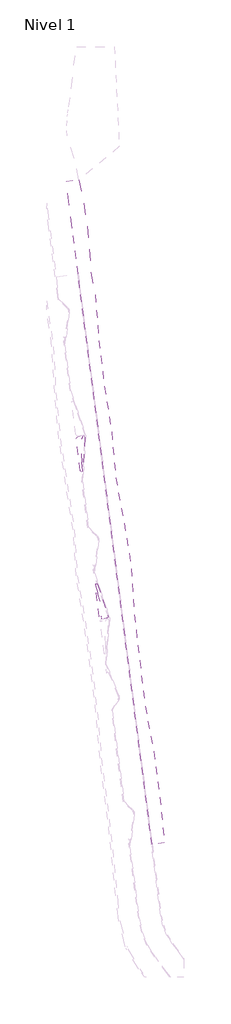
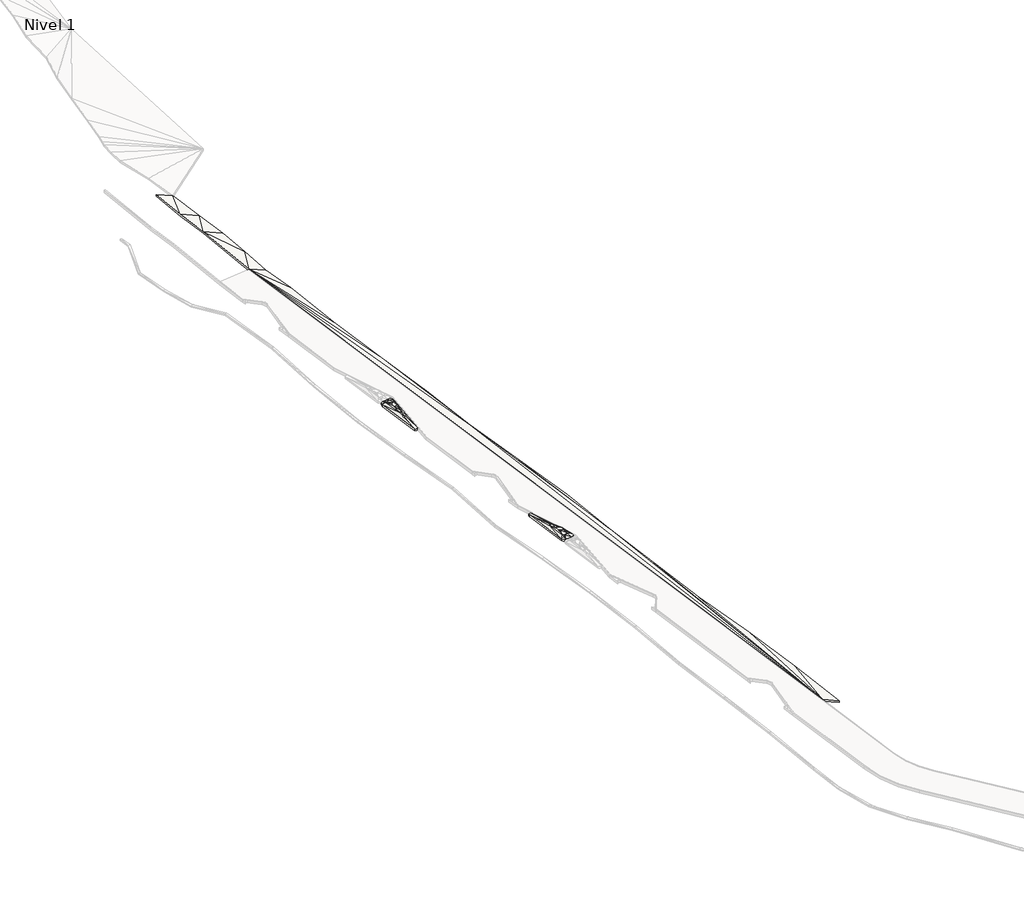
# One storey, part 35 of 45: 3 slabs.
"""IFC4 building model written with IfcOpenShell, lengths in millimetres."""

from ifc_helpers import new_model, si_unit, frame, origin, place, context, project, spatial, polyline, circle_curve, faceted_brep, element, save
from ifc_brep_helpers import plane_surface, cylinder_surface, revolved_surface, spline_surface, advanced_brep

model = new_model("IFC4")

# Units and contexts
model_context = context("Model", 3, world=origin())
ifc_project = project(units=[si_unit("LENGTHUNIT", "METRE", prefix="MILLI")], contexts=[model_context])

# Site, building, storey
site = spatial("IfcSite", under=ifc_project)
building = spatial("IfcBuilding", under=site)
storey = spatial("IfcBuildingStorey", under=building, Name="Nivel 1", Elevation=0.0)

# Slabs
placement = place(None, origin())
element("IfcSlab", 1, ObjectType="Junko", at=placement, inside=storey, context=model_context, shape_type="Brep", body=[
    faceted_brep([(-195170.9155208, 667830.5965732, 4950.0), (-195170.9155208, 667830.5965732, 5250.0), (-211233.6497505, 791794.2548292, 5250.0), (-211233.6497505, 791794.2548292, 4950.0), (-212518.6684889, 801711.3474896, 5750.0), (-213161.1778582, 806669.8938207, 5750.0), (-213839.5859699, 811905.4875942, 6013.9681786), (-213839.5859699, 811905.4875942, 5713.9681786), (-213161.1778582, 806669.8938207, 5450.0), (-212518.6684889, 801711.3474896, 5450.0), (-211091.2718558, 812261.603559, 4628.3220272), (-211091.2718558, 812261.603559, 4328.3220272), (-210006.257356, 807078.6962887, 4159.4608279), (-210006.257356, 807078.6962887, 3859.4608279), (-209289.6207255, 802129.755084, 4121.9785406), (-209289.6207255, 802129.755084, 3821.9785406), (-208796.7351194, 797151.8210811, 3947.4160766), (-208796.7351194, 797151.8210811, 3647.4160766), (-208525.7530939, 792145.1336672, 3884.7329891), (-208525.7530939, 792145.1336672, 3584.7329891), (-207525.3404823, 787232.9630615, 3704.486574), (-207525.3404823, 787232.9630615, 3404.486574), (-206722.8011146, 777253.3525793, 3947.5416702), (-206722.8011146, 777253.3525793, 3647.5416702), (-205534.8394693, 767323.6836349, 3996.6804232), (-205534.8394693, 767323.6836349, 3696.6804232), (-203972.3323759, 757442.5468487, 3856.571398), (-203972.3323759, 757442.5468487, 3556.571398), (-203086.9123284, 747473.6757247, 4058.3155019), (-203086.9123284, 747473.6757247, 3758.3155019), (-201268.4325087, 737625.7068986, 3789.080498), (-201268.4325087, 737625.7068986, 3489.080498), (-199650.7773329, 727751.7159903, 3621.3719756), (-199650.7773329, 727751.7159903, 3321.3719756), (-199029.3715208, 717748.6349182, 3955.9529208), (-199029.3715208, 717748.6349182, 3655.9529208), (-197885.7599017, 707813.2192665, 4027.2472792), (-197885.7599017, 707813.2192665, 3727.2472792), (-196684.430047, 697885.2825226, 4069.4415097), (-196684.430047, 697885.2825226, 3769.4415097), (-194837.7203735, 688040.9716131, 3786.247774), (-194837.7203735, 688040.9716131, 3486.247774), (-193483.9677748, 678132.7852202, 3751.5940553), (-193483.9677748, 678132.7852202, 3451.5940553), (-192518.157872, 668174.3307062, 3912.7211086), (-192518.157872, 668174.3307062, 3612.7211086)], [[[0, 1, 2, 3]], [[3, 2, 4, 5, 6, 7, 8, 9]], [[7, 6, 10, 11]], [[11, 10, 12, 13]], [[13, 12, 14, 15]], [[15, 14, 16, 17]], [[17, 16, 18, 19]], [[19, 18, 20, 21]], [[21, 20, 22, 23]], [[23, 22, 24, 25]], [[25, 24, 26, 27]], [[27, 26, 28, 29]], [[29, 28, 30, 31]], [[31, 30, 32, 33]], [[33, 32, 34, 35]], [[35, 34, 36, 37]], [[37, 36, 38, 39]], [[39, 38, 40, 41]], [[41, 40, 42, 43]], [[43, 42, 44, 45]], [[45, 44, 1, 0]], [[44, 42, 1]], [[45, 0, 43]], [[18, 16, 2]], [[20, 18, 2]], [[22, 20, 2]], [[24, 22, 2]], [[28, 24, 2]], [[14, 12, 4]], [[16, 14, 4]], [[40, 38, 1]], [[38, 36, 1]], [[42, 40, 1]], [[28, 26, 24]], [[34, 32, 30]], [[34, 28, 1]], [[36, 34, 1]], [[28, 2, 1]], [[19, 3, 17]], [[21, 3, 19]], [[23, 3, 21]], [[25, 3, 23]], [[29, 3, 25]], [[15, 9, 13]], [[17, 9, 15]], [[41, 0, 39]], [[39, 0, 37]], [[43, 0, 41]], [[29, 25, 27]], [[35, 31, 33]], [[35, 0, 29]], [[37, 0, 35]], [[29, 0, 3]], [[12, 10, 5]], [[16, 4, 2]], [[13, 8, 11]], [[17, 3, 9]], [[10, 6, 5]], [[12, 5, 4]], [[11, 8, 7]], [[13, 9, 8]], [[34, 30, 28]], [[35, 29, 31]]]),
])
element("IfcSlab", 2, ObjectType="Lippia", at=placement, inside=storey, context=model_context, shape_type="AdvancedBrep", body=[
    advanced_brep(
    [(-205152.7904342, 716954.5844093, 4950.0), (-205152.7904342, 716954.5844093, 5250.0), (-206061.8627749, 716837.3988308, 5250.0), (-206061.8627749, 716837.3988308, 4950.0), (-204777.8757837, 717636.2487935, 4950.0), (-204777.8757837, 717636.2487935, 5250.0), (-207022.4075223, 724287.3066201, 4950.0), (-207022.4075223, 724287.3066201, 5250.0), (-206618.2267558, 717267.9018518, 4950.0), (-206618.2267558, 717267.9018518, 5250.0), (-207509.2699008, 724206.4725139, 5250.0), (-207509.2699008, 724206.4725139, 4950.0), (-205560.8729092, 718791.9179982, 5750.0), (-205922.3436547, 719244.8389837, 5750.0), (-206252.5769525, 719287.8151394, 5750.0), (-206340.1718507, 718962.8624334, 5750.0), (-206210.197183, 718721.0064653, 5750.0), (-206071.9677279, 718441.7922734, 5750.0), (-205631.1533079, 718419.5376255, 5750.0), (-205461.6057428, 717572.8333993, 5550.0), (-205911.1551237, 717342.2757156, 5550.0), (-205560.8729092, 718791.9179982, 5450.0), (-205631.1533079, 718419.5376255, 5450.0), (-206071.9677279, 718441.7922734, 5450.0), (-206210.197183, 718721.0064653, 5450.0), (-206340.1718507, 718962.8624334, 5450.0), (-206252.5769525, 719287.8151394, 5450.0), (-205922.3436547, 719244.8389837, 5450.0), (-205461.6057428, 717572.8333993, 5250.0), (-205911.1551237, 717342.2757156, 5250.0), (-206135.6834692, 720500.7082796, 5550.0), (-206616.3095927, 720378.6899323, 5550.0), (-206135.6834692, 720500.7082796, 5250.0), (-206616.3095927, 720378.6899323, 5250.0), (-206273.4515128, 717534.8154871, 5550.0), (-206122.5749502, 717333.6991753, 5550.0), (-206273.4515128, 717534.8154871, 5250.0), (-206122.5749502, 717333.6991753, 5250.0), (-205221.607243, 717842.1926766, 5550.0), (-205221.607243, 717842.1926766, 5250.0), (-205225.3460846, 718202.9415106, 5550.0), (-205225.3460846, 718202.9415106, 5250.0), (-206429.6184272, 720650.9402926, 5550.0), (-206429.6184272, 720650.9402926, 5250.0)],
    [
        (0, 1),
        (1, 2),
        (2, 3),
        (3, 0),
        (4, 5),
        (5, 1, circle_curve(frame((-205240.6005748, 717446.8134004, 5250.0), z_axis=(0.0, 0.0, -1.0), x_axis=(0.41419378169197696, 0.9101887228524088, 0.0)), 500.0000005)),
        (0, 4, circle_curve(frame((-205240.6005748, 717446.8134004, 4950.0), z_axis=(0.0, 0.0, 1.0), x_axis=(0.41419378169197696, 0.9101887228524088, 0.0)), 500.0000005)),
        (6, 7),
        (7, 5),
        (4, 6),
        (8, 9),
        (9, 10),
        (10, 11),
        (11, 8),
        (2, 9, circle_curve(frame((-206122.5749502, 717333.6991753, 5250.0), z_axis=(0.0, 0.0, -1.0), x_axis=(0.41419378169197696, 0.9101887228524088, 0.0)), 500.0000001)),
        (8, 3, circle_curve(frame((-206122.5749502, 717333.6991753, 4950.0), z_axis=(0.0, 0.0, 1.0), x_axis=(0.41419378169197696, 0.9101887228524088, 0.0)), 500.0000001)),
        (12, 13),
        (13, 14),
        (14, 15),
        (15, 16),
        (16, 17),
        (17, 18),
        (18, 12),
        (5, 19),
        (19, 1),
        (1, 20),
        (20, 2),
        (21, 22),
        (22, 23),
        (23, 24),
        (24, 25),
        (25, 26),
        (26, 27),
        (27, 21),
        (0, 28),
        (28, 4),
        (3, 29),
        (29, 0),
        (13, 30),
        (30, 14),
        (14, 31),
        (31, 15),
        (26, 32),
        (32, 27),
        (25, 33),
        (33, 26),
        (30, 31),
        (12, 30),
        (33, 32),
        (32, 21),
        (34, 9),
        (9, 35),
        (35, 34),
        (16, 34),
        (34, 17),
        (36, 37),
        (37, 8),
        (8, 36),
        (23, 36),
        (36, 24),
        (2, 35),
        (35, 20),
        (20, 19),
        (19, 34),
        (37, 3),
        (36, 28),
        (28, 29),
        (29, 37),
        (19, 17),
        (19, 18),
        (5, 38),
        (38, 19),
        (23, 28),
        (22, 28),
        (28, 39),
        (39, 4),
        (40, 18),
        (18, 38),
        (38, 40),
        (40, 5),
        (5, 30),
        (30, 40),
        (41, 39),
        (39, 22),
        (22, 41),
        (41, 32),
        (32, 4),
        (4, 41),
        (34, 15),
        (31, 34),
        (31, 9),
        (36, 33),
        (25, 36),
        (8, 33),
        (40, 12),
        (21, 41),
        (42, 31),
        (30, 42),
        (43, 32),
        (33, 43),
        (10, 7, circle_curve(frame((-207259.2713885, 724207.3346977, 5250.0), z_axis=(0.0, 0.0, -1.0), x_axis=(0.41419378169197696, 0.9101887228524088, 0.0)), 249.999999)),
        (6, 11, circle_curve(frame((-207259.2713885, 724207.3346977, 4950.0), z_axis=(0.0, 0.0, 1.0), x_axis=(0.41419378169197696, 0.9101887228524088, 0.0)), 249.999999)),
        (31, 10),
        (42, 10),
        (42, 7),
        (30, 7),
        (11, 33),
        (11, 43),
        (6, 43),
        (6, 32),
    ],
    [
        plane_surface(frame((-205152.7904342, 716954.5844093, 4950.0), z_axis=(0.12784891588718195, -0.9917936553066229, 0.0), x_axis=(0.0, 0.0, 1.0))),
        cylinder_surface(frame((-205240.6005748, 717446.8134004, 5250.0), z_axis=(0.0, 0.0, -1.0000000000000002), x_axis=(0.41419378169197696, 0.9101887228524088, 0.0)), 500.0000005),
        plane_surface(frame((-207022.4075223, 724287.3066201, 4950.0), z_axis=(0.9475009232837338, 0.31975303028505, 0.0), x_axis=(0.0, 0.0, 1.0))),
        plane_surface(frame((-206618.2267558, 717267.9018518, 4950.0), z_axis=(-0.9918549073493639, -0.127372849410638, 0.0), x_axis=(0.0, 0.0, 1.0))),
        cylinder_surface(frame((-206122.5749502, 717333.6991753, 5250.0), z_axis=(0.0, 0.0, -1.0000000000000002), x_axis=(0.41419378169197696, 0.9101887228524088, 0.0)), 500.0000001),
        plane_surface(frame((-205998.4690837, 718838.5387027, 5750.0), z_axis=(0.0, 0.0, 1.0), x_axis=(-0.623783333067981, 0.7815973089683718, 0.0))),
        spline_surface(2, 1, [[(-205152.7904342, 716954.5844093, 5250.0), (-205461.6057428, 717572.8333993, 5550.0)], [(-204917.61631318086, 716996.537794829, 5250.0), (-205461.6057428, 717572.8333993, 5550.0)], [(-204802.49241357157, 717205.8544006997, 5250.0), (-205461.6057428, 717572.8333993, 5550.0)], [(-204687.36851395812, 717415.1710065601, 5250.0), (-205461.6057428, 717572.8333993, 5550.0)], [(-204777.8757837, 717636.2487935, 5250.0), (-205461.6057428, 717572.8333993, 5550.0)]], [3, 2, 3], [2, 2], [0.0, 1.0, 2.0], [0.0, 1.0], weights=[[1.0, 1.0], [0.9023052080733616, 0.9023052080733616], [1.0, 1.0], [0.9023052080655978, 0.9023052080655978], [1.0, 1.0]]),
        plane_surface(frame((-205708.6027776, 717044.7529853, 5350.0), z_axis=(0.06761124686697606, -0.5244972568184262, 0.8487233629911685), x_axis=(0.9917936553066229, 0.12784891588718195, 0.0))),
        plane_surface(frame((-205998.4690837, 718838.5387027, 5450.0), z_axis=(0.0, 0.0, -1.0), x_axis=(-0.623783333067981, 0.7815973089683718, 0.0))),
        spline_surface(1, 2, [[(-205152.7904342, 716954.5844093, 4950.0), (-204917.61631318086, 716996.537794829, 4950.0), (-204802.49241357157, 717205.8544006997, 4950.0), (-204687.36851395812, 717415.1710065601, 4950.0), (-204777.8757837, 717636.2487935, 4950.0)], [(-205461.6057428, 717572.8333993, 5250.0), (-205461.6057428, 717572.8333993, 5250.0), (-205461.6057428, 717572.8333993, 5250.0), (-205461.6057428, 717572.8333993, 5250.0), (-205461.6057428, 717572.8333993, 5250.0)]], [2, 2], [3, 2, 3], [0.0, 1.0], [0.0, 1.0, 2.0], weights=[[1.0, 0.9023052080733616, 1.0, 0.9023052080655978, 1.0], [1.0, 0.9023052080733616, 1.0, 0.9023052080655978, 1.0]]),
        plane_surface(frame((-205708.6027776, 717044.7529853, 5050.0), z_axis=(-0.06761124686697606, 0.5244972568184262, -0.8487233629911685), x_axis=(0.9917936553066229, 0.12784891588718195, 0.0))),
        plane_surface(frame((-206103.5346922, 719677.7874676, 5683.3333333), z_axis=(0.02091327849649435, 0.16069983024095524, 0.9867817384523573), x_axis=(0.9916380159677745, -0.1290505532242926, 0.0))),
        plane_surface(frame((-206403.0194653, 719543.1225017, 5683.3333333), z_axis=(-0.29000874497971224, 0.07817533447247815, 0.9538257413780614), x_axis=(0.2602716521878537, 0.9655354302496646, 0.0))),
        plane_surface(frame((-206103.5346922, 719677.7874676, 5383.3333333), z_axis=(-0.02091327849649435, -0.16069983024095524, -0.9867817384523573), x_axis=(0.9916380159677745, -0.1290505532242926, 0.0))),
        plane_surface(frame((-206403.0194653, 719543.1225017, 5383.3333333), z_axis=(0.29000874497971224, -0.07817533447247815, -0.9538257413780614), x_axis=(0.2602716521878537, 0.9655354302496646, 0.0))),
        plane_surface(frame((-206334.8566715, 720055.7377838, 5616.6666667), z_axis=(-0.04227442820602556, 0.16651753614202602, 0.9851318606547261), x_axis=(0.31163370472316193, -0.9346242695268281, 0.17135317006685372))),
        plane_surface(frame((-205872.9666777, 719512.4884205, 5683.3333333), z_axis=(0.2411342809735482, 0.19244634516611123, 0.9512195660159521), x_axis=(0.16544823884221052, -0.9739455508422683, 0.15510301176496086))),
        plane_surface(frame((-206334.8566715, 720055.7377838, 5316.6666667), z_axis=(0.04227442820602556, -0.16651753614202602, -0.9851318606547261), x_axis=(0.31163370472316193, -0.9346242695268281, 0.17135317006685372))),
        plane_surface(frame((-205872.9666777, 719512.4884205, 5383.3333333), z_axis=(-0.2411342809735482, -0.19244634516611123, -0.9512195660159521), x_axis=(0.16544823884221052, -0.9739455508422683, 0.15510301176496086))),
        plane_surface(frame((-206338.0844063, 717378.8055048, 5450.0), z_axis=(-0.45345880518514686, -0.3401827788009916, 0.8238026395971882), x_axis=(-0.6514326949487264, -0.5043177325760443, -0.5668324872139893))),
        plane_surface(frame((-206185.2054746, 718232.5380753, 5683.3333333), z_axis=(-0.29081868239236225, -0.14397444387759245, 0.9458836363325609), x_axis=(-0.44367266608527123, 0.8961889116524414, 0.0))),
        plane_surface(frame((-206338.0844063, 717378.8055048, 5150.0), z_axis=(0.45345880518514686, 0.3401827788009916, -0.8238026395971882), x_axis=(-0.6514326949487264, -0.5043177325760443, -0.5668324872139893))),
        plane_surface(frame((-206185.2054746, 718232.5380753, 5383.3333333), z_axis=(0.29081868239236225, 0.14397444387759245, -0.9458836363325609), x_axis=(-0.44367266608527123, 0.8961889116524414, 0.0))),
        revolved_surface(polyline([(-206122.5749502, 717333.6991753, 5550.0), (-206618.2267558, 717267.9018518, 5250.0)]), (-206122.5749502, 717333.6991753, 5550.0), (0.0, 0.0, -1.0)),
        plane_surface(frame((-205942.1968324, 717445.9059443, 5550.0), z_axis=(0.0, 0.0, 1.0), x_axis=(0.9991781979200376, 0.0405330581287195, 0.0))),
        plane_surface(frame((-206031.8642829, 717171.1245739, 5450.0), z_axis=(0.020904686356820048, -0.5153202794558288, 0.8567426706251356), x_axis=(0.10412052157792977, -0.8511480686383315, -0.5144957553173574))),
        revolved_surface(polyline([(-206061.8627749, 716837.3988308, 4950.0), (-206122.5749502, 717333.6991753, 5250.0)]), (-206122.5749502, 717333.6991753, 5250.0), (0.0, 0.0, -1.0)),
        plane_surface(frame((-205942.1968324, 717445.9059443, 5250.0), z_axis=(0.0, 0.0, -1.0), x_axis=(0.9991781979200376, 0.0405330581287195, 0.0))),
        plane_surface(frame((-206031.8642829, 717171.1245739, 5150.0), z_axis=(-0.020904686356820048, 0.5153202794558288, -0.8567426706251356), x_axis=(0.10412052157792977, -0.8511480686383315, -0.5144957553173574))),
        plane_surface(frame((-205935.6749945, 717849.8137199, 5616.6666667), z_axis=(0.010184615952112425, -0.21748530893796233, 0.9760104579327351), x_axis=(-0.5648519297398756, 0.8041672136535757, 0.1850875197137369))),
        plane_surface(frame((-205721.5755929, 718144.7210994, 5683.3333333), z_axis=(-0.011717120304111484, -0.23208974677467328, 0.9726238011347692), x_axis=(-0.19128273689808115, 0.9552475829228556, 0.22563902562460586))),
        plane_surface(frame((-205153.6962565, 717683.7582898, 5450.0), z_axis=(0.4027434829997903, -0.3588435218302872, 0.8420386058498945), x_axis=(0.9124447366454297, 0.08462850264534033, -0.4003531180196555))),
        plane_surface(frame((-205508.5171002, 717289.8978414, 5450.0), z_axis=(0.18172584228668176, -0.3543353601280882, 0.9172906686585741), x_axis=(0.8398215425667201, -0.42933369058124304, -0.33222335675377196))),
        plane_surface(frame((-205935.6749945, 717849.8137199, 5316.6666667), z_axis=(-0.010184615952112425, 0.21748530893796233, -0.9760104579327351), x_axis=(-0.5648519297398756, 0.8041672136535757, 0.1850875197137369))),
        plane_surface(frame((-205721.5755929, 718144.7210994, 5383.3333333), z_axis=(0.011717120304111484, 0.23208974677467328, -0.9726238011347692), x_axis=(-0.19128273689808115, 0.9552475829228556, 0.22563902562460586))),
        plane_surface(frame((-205153.6962565, 717683.7582898, 5150.0), z_axis=(-0.4027434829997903, 0.3588435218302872, -0.8420386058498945), x_axis=(0.9124447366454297, 0.08462850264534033, -0.4003531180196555))),
        plane_surface(frame((-205508.5171002, 717289.8978414, 5150.0), z_axis=(-0.18172584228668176, 0.3543353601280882, -0.9172906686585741), x_axis=(0.8398215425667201, -0.42933369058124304, -0.33222335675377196))),
        plane_surface(frame((-205359.3688785, 718154.8906043, 5616.6666667), z_axis=(0.44404235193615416, 0.004602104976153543, 0.8959939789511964), x_axis=(-0.8090403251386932, 0.4318183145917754, 0.3987313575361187))),
        plane_surface(frame((-205379.6351125, 718779.9661946, 5450.0), z_axis=(0.7648784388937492, 0.3030322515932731, 0.5684473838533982), x_axis=(0.5722845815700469, -0.7247620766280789, -0.38367993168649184))),
        plane_surface(frame((-205359.3688785, 718154.8906043, 5316.6666667), z_axis=(-0.44404235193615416, -0.004602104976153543, -0.8959939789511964), x_axis=(-0.8090403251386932, 0.4318183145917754, 0.3987313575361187))),
        plane_surface(frame((-205379.6351125, 718779.9661946, 5150.0), z_axis=(-0.7648784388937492, -0.3030322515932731, -0.5684473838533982), x_axis=(0.5722845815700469, -0.7247620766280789, -0.38367993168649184))),
        plane_surface(frame((-205438.1220979, 717944.8545672, 5616.6666667), z_axis=(0.20789891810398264, -0.18523746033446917, 0.9604504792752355), x_axis=(-0.5567778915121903, 0.7849004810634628, 0.2719000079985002))),
        plane_surface(frame((-205438.1220979, 717944.8545672, 5316.6666667), z_axis=(-0.20789891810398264, 0.18523746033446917, -0.9604504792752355), x_axis=(-0.5567778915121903, 0.7849004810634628, 0.2719000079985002))),
        plane_surface(frame((-206409.9776521, 718958.7892843, 5616.6666667), z_axis=(-0.8795981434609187, -0.10604453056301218, 0.46374741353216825), x_axis=(-0.0462203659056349, 0.9892763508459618, 0.13854955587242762))),
        plane_surface(frame((-206274.6068488, 718406.2281286, 5683.3333333), z_axis=(-0.2715226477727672, -0.1459176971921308, 0.9513061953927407), x_axis=(0.052510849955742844, 0.9847214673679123, 0.16603084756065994))),
        plane_surface(frame((-206502.6626204, 718393.8024238, 5450.0), z_axis=(-0.6209666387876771, -0.07486386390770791, 0.7802536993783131), x_axis=(-0.0006134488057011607, -0.9953817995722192, -0.09599321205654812))),
        plane_surface(frame((-206409.9776521, 718958.7892843, 5316.6666667), z_axis=(0.8795981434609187, 0.10604453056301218, -0.46374741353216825), x_axis=(-0.0462203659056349, 0.9892763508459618, 0.13854955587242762))),
        plane_surface(frame((-206274.6068488, 718406.2281286, 5383.3333333), z_axis=(0.2715226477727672, 0.1459176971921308, -0.9513061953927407), x_axis=(0.052510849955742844, 0.9847214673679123, 0.16603084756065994))),
        plane_surface(frame((-206502.6626204, 718393.8024238, 5150.0), z_axis=(0.6209666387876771, 0.07486386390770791, -0.7802536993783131), x_axis=(-0.0006134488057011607, -0.9953817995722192, -0.09599321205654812))),
        plane_surface(frame((-205472.4574339, 718471.4657115, 5683.3333333), z_axis=(0.4074399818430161, -0.076897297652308, 0.9099887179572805), x_axis=(-0.18545869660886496, -0.9826520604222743, 0.0))),
        plane_surface(frame((-205640.6341543, 719165.1892628, 5616.6666667), z_axis=(0.8397727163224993, 0.3327041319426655, 0.4290568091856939), x_axis=(0.31688543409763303, -0.9420334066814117, 0.11025734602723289))),
        plane_surface(frame((-205472.4574339, 718471.4657115, 5383.3333333), z_axis=(-0.4074399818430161, 0.076897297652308, -0.9099887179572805), x_axis=(-0.18545869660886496, -0.9826520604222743, 0.0))),
        plane_surface(frame((-205640.6341543, 719165.1892628, 5316.6666667), z_axis=(-0.8397727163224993, -0.3327041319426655, -0.4290568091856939), x_axis=(0.31688543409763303, -0.9420334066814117, 0.11025734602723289))),
        plane_surface(frame((-206393.8704964, 720510.1128348, 5550.0), z_axis=(0.0, 0.0, 1.0), x_axis=(-0.5655390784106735, -0.8247214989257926, 0.0))),
        plane_surface(frame((-205074.9430371, 717893.7943269, 5450.0), z_axis=(0.5619341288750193, 0.005823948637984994, 0.8271614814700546), x_axis=(0.7732455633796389, -0.35887740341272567, -0.5227794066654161))),
        plane_surface(frame((-206393.8704964, 720510.1128348, 5250.0), z_axis=(0.0, 0.0, -1.0), x_axis=(-0.5655390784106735, -0.8247214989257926, 0.0))),
        plane_surface(frame((-205074.9430371, 717893.7943269, 5150.0), z_axis=(-0.5619341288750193, -0.005823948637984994, -0.8271614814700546), x_axis=(0.7732455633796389, -0.35887740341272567, -0.5227794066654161))),
        cylinder_surface(frame((-207259.2713885, 724207.3346977, 5250.0), z_axis=(0.0, 0.0, -1.0000000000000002), x_axis=(0.41419378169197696, 0.9101887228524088, 0.0)), 249.999999),
        plane_surface(frame((-206914.6020831, 720617.6880993, 5350.0), z_axis=(-0.5968959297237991, -0.07665267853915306, 0.7986486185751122), x_axis=(0.127372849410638, -0.9918549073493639, 0.0))),
        plane_surface(frame((-206851.7326402, 721745.3675796, 5450.0), z_axis=(-0.08482829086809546, 0.058169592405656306, 0.9946961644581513), x_axis=(0.22652516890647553, -0.9710275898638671, 0.07610366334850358))),
        spline_surface(2, 1, [[(-207022.4075223, 724287.3066201, 5250.0), (-206429.6184272, 720650.9402926, 5550.0)], [(-207090.43375112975, 724488.789279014, 5250.0), (-206429.6184272, 720650.9402926, 5550.0)], [(-207300.21852408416, 724453.9585642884, 5250.0), (-206429.6184272, 720650.9402926, 5550.0)], [(-207510.0032970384, 724419.1278495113, 5250.0), (-206429.6184272, 720650.9402926, 5550.0)], [(-207509.2699008, 724206.4725139, 5250.0), (-206429.6184272, 720650.9402926, 5550.0)]], [3, 2, 3], [2, 2], [0.0, 1.0, 2.0], [0.0, 1.0], weights=[[1.0, 1.0], [0.7617038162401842, 0.7617038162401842], [1.0, 1.0], [0.761703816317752, 0.761703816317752], [1.0, 1.0]]),
        plane_surface(frame((-206529.2364729, 721812.9850641, 5450.0), z_axis=(0.045765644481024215, 0.08954231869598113, 0.9949309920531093), x_axis=(0.8904364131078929, -0.4551076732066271, 0.0))),
        plane_surface(frame((-205978.6555918, 720808.0878977, 5350.0), z_axis=(0.5961501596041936, 0.20118272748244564, 0.7772583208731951), x_axis=(0.4264279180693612, -0.8996012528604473, -0.09421685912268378))),
        plane_surface(frame((-206914.6020831, 720617.6880993, 5050.0), z_axis=(0.5968959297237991, 0.07665267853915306, -0.7986486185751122), x_axis=(0.127372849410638, -0.9918549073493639, 0.0))),
        plane_surface(frame((-206851.7326402, 721745.3675796, 5150.0), z_axis=(0.08482829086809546, -0.058169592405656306, -0.9946961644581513), x_axis=(0.22652516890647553, -0.9710275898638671, 0.07610366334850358))),
        spline_surface(1, 2, [[(-207022.4075223, 724287.3066201, 4950.0), (-207090.43375112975, 724488.789279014, 4950.0), (-207300.21852408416, 724453.9585642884, 4950.0), (-207510.0032970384, 724419.1278495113, 4950.0), (-207509.2699008, 724206.4725139, 4950.0)], [(-206429.6184272, 720650.9402926, 5250.0), (-206429.6184272, 720650.9402926, 5250.0), (-206429.6184272, 720650.9402926, 5250.0), (-206429.6184272, 720650.9402926, 5250.0), (-206429.6184272, 720650.9402926, 5250.0)]], [2, 2], [3, 2, 3], [0.0, 1.0], [0.0, 1.0, 2.0], weights=[[1.0, 0.7617038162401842, 1.0, 0.761703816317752, 1.0], [1.0, 0.7617038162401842, 1.0, 0.761703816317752, 1.0]]),
        plane_surface(frame((-206529.2364729, 721812.9850641, 5150.0), z_axis=(-0.045765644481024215, -0.08954231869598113, -0.9949309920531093), x_axis=(0.8904364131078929, -0.4551076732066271, 0.0))),
        plane_surface(frame((-205978.6555918, 720808.0878977, 5050.0), z_axis=(-0.5961501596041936, -0.20118272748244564, -0.7772583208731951), x_axis=(0.4264279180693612, -0.8996012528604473, -0.09421685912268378))),
    ],
    [
        (0, [[1, 2, 3, 4]]),
        (1, [[5, 6, -1, 7]]),
        (2, [[8, 9, -5, 10]]),
        (3, [[11, 12, 13, 14]]),
        (4, [[-3, 15, -11, 16]]),
        (5, [[17, 18, 19, 20, 21, 22, 23]]),
        (6, [[-6, 24, 25]]),
        (7, [[-2, 26, 27]]),
        (8, [[28, 29, 30, 31, 32, 33, 34]]),
        (9, [[35, 36, -7]]),
        (10, [[37, 38, -4]]),
        (11, [[-18, 39, 40]]),
        (12, [[-19, 41, 42]]),
        (13, [[43, 44, -33]]),
        (14, [[45, 46, -32]]),
        (15, [[-41, -40, 47]]),
        (16, [[-39, -17, 48]]),
        (17, [[49, -43, -46]]),
        (18, [[50, -34, -44]]),
        (19, [[51, 52, 53]]),
        (20, [[-21, 54, 55]]),
        (21, [[56, 57, 58]]),
        (22, [[59, 60, -30]]),
        (23, [[-52, -15, 61]]),
        (24, [[62, 63, 64, -53]]),
        (25, [[-61, -27, -62]]),
        (26, [[65, -16, -57]]),
        (27, [[-56, 66, 67, 68]]),
        (28, [[-68, -37, -65]]),
        (29, [[69, -55, -64]]),
        (30, [[70, -22, -69]]),
        (31, [[-24, 71, 72]]),
        (32, [[-26, -25, -63]]),
        (33, [[-66, -59, 73]]),
        (34, [[-73, -29, 74]]),
        (35, [[75, 76, -36]]),
        (36, [[-67, -35, -38]]),
        (37, [[77, 78, 79]]),
        (38, [[80, 81, 82]]),
        (39, [[83, 84, 85]]),
        (40, [[86, 87, 88]]),
        (41, [[-78, -70, -72]]),
        (42, [[-75, -74, -84]]),
        (43, [[89, -42, 90]]),
        (44, [[-54, -20, -89]]),
        (45, [[91, -51, -90]]),
        (46, [[92, -45, 93]]),
        (47, [[-93, -31, -60]]),
        (48, [[-92, -58, 94]]),
        (49, [[-23, -77, 95]]),
        (50, [[-48, -95, -82]]),
        (51, [[96, -85, -28]]),
        (52, [[-86, -96, -50]]),
        (53, [[97, -47, 98]]),
        (54, [[-71, -80, -79]]),
        (55, [[99, -49, 100]]),
        (56, [[-83, -88, -76]]),
        (57, [[-13, 101, -8, 102]]),
        (58, [[-12, -91, 103]]),
        (59, [[-103, -97, 104]]),
        (60, [[-104, 105, -101]]),
        (61, [[-98, 106, -105]]),
        (62, [[-81, -9, -106]]),
        (63, [[107, -94, -14]]),
        (64, [[108, -100, -107]]),
        (65, [[-102, 109, -108]]),
        (66, [[-109, 110, -99]]),
        (67, [[-110, -10, -87]]),
    ],
),
])
element("IfcSlab", 3, ObjectType="Lippia", at=placement, inside=storey, context=model_context, shape_type="AdvancedBrep", body=[
    advanced_brep(
    [(-211201.918915, 756505.164644, 4950.0), (-211201.918915, 756505.164644, 5250.0), (-210315.9915705, 756619.9738916, 5250.0), (-210315.9915705, 756619.9738916, 4950.0), (-209753.0186721, 756088.2750405, 5250.0), (-209753.0186721, 756088.2750405, 4950.0), (-210236.6290671, 749043.0813654, 5250.0), (-210236.6290671, 749043.0813654, 4950.0), (-210734.133054, 749029.3308674, 4950.0), (-210734.133054, 749029.3308674, 5250.0), (-211630.5436819, 755947.3523641, 5250.0), (-211630.5436819, 755947.3523641, 4950.0), (-210437.0876487, 755934.4847064, 5550.0), (-210925.9682186, 756042.0615182, 5550.0), (-210437.0876487, 755934.4847064, 5250.0), (-210925.9682186, 756042.0615182, 5250.0), (-210454.8893095, 754212.3104308, 5750.0), (-210337.6711664, 754477.2812531, 5750.0), (-210220.4530234, 754742.2520754, 5750.0), (-210383.1021565, 755084.526433, 5750.0), (-210804.113028, 754927.7591581, 5750.0), (-210866.4686519, 754645.7416318, 5750.0), (-210917.9667312, 754412.8298266, 5750.0), (-210760.3924142, 754073.4961721, 5750.0), (-210454.8893095, 754212.3104308, 5450.0), (-210760.3924142, 754073.4961721, 5450.0), (-210917.9667312, 754412.8298266, 5450.0), (-210866.4686519, 754645.7416318, 5450.0), (-210804.113028, 754927.7591581, 5450.0), (-210383.1021565, 755084.526433, 5450.0), (-210220.4530234, 754742.2520754, 5450.0), (-210337.6711664, 754477.2812531, 5450.0), (-211227.1624621, 755762.4819398, 5550.0), (-211149.7639745, 755981.1294459, 5550.0), (-211227.1624621, 755762.4819398, 5250.0), (-211149.7639745, 755981.1294459, 5250.0), (-210132.9195247, 755735.538713, 5550.0), (-210132.9195247, 755735.538713, 5250.0), (-210043.8362933, 755383.1725201, 5550.0), (-210339.273329, 752930.4866199, 5550.0), (-210339.273329, 752930.4866199, 5250.0), (-210043.8362933, 755383.1725201, 5250.0), (-210835.1279458, 752926.1755664, 5550.0), (-210835.1279458, 752926.1755664, 5250.0), (-210585.2951367, 752710.3941683, 5550.0), (-210585.2951367, 752710.3941683, 5250.0)],
    [
        (0, 1),
        (1, 2),
        (2, 3),
        (3, 0),
        (2, 4, circle_curve(frame((-210251.732381, 756124.1168562, 5250.0), z_axis=(0.0, 0.0, -1.0), x_axis=(0.9764306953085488, 0.21583117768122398, 0.0)), 499.9999992)),
        (4, 5),
        (5, 3, circle_curve(frame((-210251.732381, 756124.1168562, 4950.0), z_axis=(0.0, 0.0, 1.0), x_axis=(0.9764306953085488, 0.21583117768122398, 0.0)), 499.9999992)),
        (4, 6),
        (6, 7),
        (7, 5),
        (8, 9),
        (9, 10),
        (10, 11),
        (11, 8),
        (10, 1, circle_curve(frame((-211134.4508522, 756009.7374943, 5250.0), z_axis=(0.0, 0.0, -1.0), x_axis=(0.9764306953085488, 0.21583117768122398, 0.0)), 500.0000001)),
        (0, 11, circle_curve(frame((-211134.4508522, 756009.7374943, 4950.0), z_axis=(0.0, 0.0, 1.0), x_axis=(0.9764306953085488, 0.21583117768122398, 0.0)), 500.0000001)),
        (2, 12),
        (12, 4),
        (1, 13),
        (13, 2),
        (5, 14),
        (14, 3),
        (3, 15),
        (15, 0),
        (16, 17),
        (17, 18),
        (18, 19),
        (19, 20),
        (20, 21),
        (21, 22),
        (22, 23),
        (23, 16),
        (24, 25),
        (25, 26),
        (26, 27),
        (27, 28),
        (28, 29),
        (29, 30),
        (30, 31),
        (31, 24),
        (20, 32),
        (32, 22),
        (10, 32),
        (32, 33),
        (33, 10),
        (19, 32),
        (26, 34),
        (34, 28),
        (11, 35),
        (35, 34),
        (34, 11),
        (34, 29),
        (32, 12),
        (12, 13),
        (13, 33),
        (19, 12),
        (12, 36),
        (36, 4),
        (35, 15),
        (15, 14),
        (14, 34),
        (14, 29),
        (5, 37),
        (37, 14),
        (4, 38),
        (38, 39),
        (39, 4),
        (19, 38),
        (38, 36),
        (36, 19),
        (5, 40),
        (40, 41),
        (41, 5),
        (29, 37),
        (37, 41),
        (41, 29),
        (22, 42),
        (42, 23),
        (23, 39),
        (39, 16),
        (39, 18),
        (25, 43),
        (43, 26),
        (24, 40),
        (40, 25),
        (30, 40),
        (42, 39),
        (40, 43),
        (1, 33),
        (35, 0),
        (10, 42),
        (42, 32),
        (42, 44),
        (44, 39),
        (18, 38),
        (34, 43),
        (43, 11),
        (40, 45),
        (45, 43),
        (41, 30),
        (6, 9, circle_curve(frame((-210486.0464774, 749060.2023783, 5250.0), z_axis=(0.0, 0.0, -1.0), x_axis=(0.9764306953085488, 0.21583117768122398, 0.0)), 249.9999994)),
        (8, 7, circle_curve(frame((-210486.0464774, 749060.2023783, 4950.0), z_axis=(0.0, 0.0, 1.0), x_axis=(0.9764306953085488, 0.21583117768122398, 0.0)), 249.9999994)),
        (9, 42),
        (9, 44),
        (6, 44),
        (6, 39),
        (43, 8),
        (45, 8),
        (45, 7),
        (40, 7),
    ],
    [
        plane_surface(frame((-211201.918915, 756505.164644, 4950.0), z_axis=(-0.1285174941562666, 0.9917072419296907, 0.0), x_axis=(0.0, 0.0, 1.0))),
        cylinder_surface(frame((-210251.732381, 756124.1168562, 5250.0), z_axis=(0.0, 0.0, -1.0), x_axis=(0.9764306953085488, 0.21583117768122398, 0.0)), 499.9999992),
        plane_surface(frame((-209753.0186721, 756088.2750405, 4950.0), z_axis=(0.9976522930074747, -0.06848286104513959, 0.0), x_axis=(0.0, 0.0, 1.0))),
        plane_surface(frame((-210734.133054, 749029.3308674, 4950.0), z_axis=(-0.991709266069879, -0.1285018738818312, 0.0), x_axis=(0.0, 0.0, 1.0))),
        cylinder_surface(frame((-211134.4508522, 756009.7374943, 5250.0), z_axis=(0.0, 0.0, -1.0), x_axis=(0.9764306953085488, 0.21583117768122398, 0.0)), 500.0000001),
        spline_surface(2, 1, [[(-209753.0186721, 756088.2750405, 5250.0), (-210437.0876487, 755934.4847064, 5550.0)], [(-209736.01991698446, 756324.8007868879, 5250.0), (-210437.0876487, 755934.4847064, 5550.0)], [(-209908.42087865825, 756487.6236808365, 5250.0), (-210437.0876487, 755934.4847064, 5550.0)], [(-210080.82184034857, 756650.4465747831, 5250.0), (-210437.0876487, 755934.4847064, 5550.0)], [(-210315.9911279, 756619.9704764, 5250.0), (-210437.0876487, 755934.4847064, 5550.0)]], [3, 2, 3], [2, 2], [0.0, 1.0, 2.0], [0.0, 1.0], weights=[[1.0, 1.0], [0.9035324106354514, 0.9035324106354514], [1.0, 1.0], [0.9035324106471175, 0.9035324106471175], [1.0, 1.0]]),
        plane_surface(frame((-210814.6262347, 756389.0666846, 5350.0), z_axis=(-0.06663769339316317, 0.5142107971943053, 0.8550711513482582), x_axis=(-0.9917072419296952, -0.12851749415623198, 0.0))),
        spline_surface(1, 2, [[(-209753.0186721, 756088.2750405, 4950.0), (-209736.01991698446, 756324.8007868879, 4950.0), (-209908.42087865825, 756487.6236808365, 4950.0), (-210080.82184034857, 756650.4465747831, 4950.0), (-210315.9911279, 756619.9704764, 4950.0)], [(-210437.0876487, 755934.4847064, 5250.0), (-210437.0876487, 755934.4847064, 5250.0), (-210437.0876487, 755934.4847064, 5250.0), (-210437.0876487, 755934.4847064, 5250.0), (-210437.0876487, 755934.4847064, 5250.0)]], [2, 2], [3, 2, 3], [0.0, 1.0], [0.0, 1.0, 2.0], weights=[[1.0, 0.9035324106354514, 1.0, 0.9035324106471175, 1.0], [1.0, 0.9035324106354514, 1.0, 0.9035324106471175, 1.0]]),
        plane_surface(frame((-210814.6262347, 756389.0666846, 5050.0), z_axis=(0.06663769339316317, -0.5142107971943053, -0.8550711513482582), x_axis=(-0.9917072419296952, -0.12851749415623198, 0.0))),
        plane_surface(frame((-210590.1527771, 754575.529016, 5750.0), z_axis=(0.0, 0.0, 1.0), x_axis=(0.4045623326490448, 0.9145104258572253, 0.0))),
        plane_surface(frame((-210590.1527771, 754575.529016, 5450.0), z_axis=(0.0, 0.0, -1.0), x_axis=(0.4045623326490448, 0.9145104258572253, 0.0))),
        plane_surface(frame((-210983.0807404, 755034.3569748, 5683.3333333), z_axis=(-0.3119115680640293, 0.06896536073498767, 0.9476048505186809), x_axis=(0.2158912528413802, 0.97641741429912, 0.0))),
        plane_surface(frame((-211335.8233728, 755896.9879166, 5450.0), z_axis=(-0.5294434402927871, 0.1874163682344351, 0.8273842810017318), x_axis=(0.7531046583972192, -0.345149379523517, 0.5600939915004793))),
        plane_surface(frame((-210804.7925488, 755258.2558436, 5683.3333333), z_axis=(-0.07337556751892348, 0.19705586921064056, 0.9776425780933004), x_axis=(-0.7666747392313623, 0.6157988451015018, -0.18166349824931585))),
        plane_surface(frame((-210983.0807404, 755034.3569748, 5383.3333333), z_axis=(0.3119115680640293, -0.06896536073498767, -0.9476048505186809), x_axis=(0.2158912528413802, 0.97641741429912, 0.0))),
        plane_surface(frame((-211335.8233728, 755896.9879166, 5150.0), z_axis=(0.5294434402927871, -0.1874163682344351, -0.8273842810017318), x_axis=(0.7531046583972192, -0.345149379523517, 0.5600939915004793))),
        plane_surface(frame((-210804.7925488, 755258.2558436, 5383.3333333), z_axis=(0.07337556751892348, -0.19705586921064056, -0.9776425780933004), x_axis=(-0.7666747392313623, 0.6157988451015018, -0.18166349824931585))),
        plane_surface(frame((-210934.995576, 755930.0394026, 5550.0), z_axis=(0.0, 0.0, 1.0), x_axis=(0.9771128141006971, 0.2127217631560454, 0.0))),
        plane_surface(frame((-210682.4507557, 755593.8310264, 5616.6666667), z_axis=(-0.049160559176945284, 0.22581334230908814, 0.9729293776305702), x_axis=(-0.06170905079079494, 0.9715595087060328, -0.22861346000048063))),
        plane_surface(frame((-210107.6752818, 755919.43282, 5450.0), z_axis=(0.2803243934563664, 0.42858739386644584, 0.8589127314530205), x_axis=(-0.8969887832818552, -0.20165832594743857, 0.39337646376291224))),
        plane_surface(frame((-210559.6824793, 756198.8400387, 5450.0), z_axis=(0.08511790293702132, 0.38681652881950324, 0.9182199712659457), x_axis=(-0.6836626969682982, -0.6477250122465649, 0.3362404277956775))),
        plane_surface(frame((-210934.995576, 755930.0394026, 5250.0), z_axis=(0.0, 0.0, -1.0), x_axis=(0.9771128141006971, 0.2127217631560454, 0.0))),
        plane_surface(frame((-210682.4507557, 755593.8310264, 5316.6666667), z_axis=(0.049160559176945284, -0.22581334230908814, -0.9729293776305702), x_axis=(-0.06170905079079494, 0.9715595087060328, -0.22861346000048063))),
        plane_surface(frame((-210107.6752818, 755919.43282, 5150.0), z_axis=(-0.2803243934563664, -0.42858739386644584, -0.8589127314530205), x_axis=(-0.8969887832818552, -0.20165832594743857, 0.39337646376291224))),
        plane_surface(frame((-210559.6824793, 756198.8400387, 5150.0), z_axis=(-0.08511790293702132, -0.38681652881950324, -0.9182199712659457), x_axis=(-0.6836626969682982, -0.6477250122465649, 0.3362404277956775))),
        plane_surface(frame((-210045.3760981, 754800.6447269, 5450.0), z_axis=(0.8204736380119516, -0.09882973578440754, 0.5630769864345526), x_axis=(-0.35482864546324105, -0.8603005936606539, 0.3660321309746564))),
        plane_surface(frame((-210186.6193248, 755401.079222, 5616.6666667), z_axis=(0.4317439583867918, 0.10915106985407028, 0.8953676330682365), x_axis=(0.686414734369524, 0.604231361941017, -0.4046470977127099))),
        plane_surface(frame((-210045.3760981, 754800.6447269, 5150.0), z_axis=(-0.8204736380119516, 0.09882973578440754, -0.5630769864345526), x_axis=(-0.35482864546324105, -0.8603005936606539, 0.3660321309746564))),
        plane_surface(frame((-210186.6193248, 755401.079222, 5316.6666667), z_axis=(-0.4317439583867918, -0.10915106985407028, -0.8953676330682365), x_axis=(0.686414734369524, 0.604231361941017, -0.4046470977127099))),
        plane_surface(frame((-210837.8290304, 753804.1671884, 5683.3333333), z_axis=(-0.3094575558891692, -0.14370093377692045, 0.9399925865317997), x_axis=(-0.42116968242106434, 0.9069818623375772, 0.0))),
        plane_surface(frame((-210518.1850176, 753738.7644076, 5683.3333333), z_axis=(0.06719998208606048, -0.14789405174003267, 0.986717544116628), x_axis=(-0.9104234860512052, -0.41367750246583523, 0.0))),
        plane_surface(frame((-210338.2052206, 753961.683042, 5683.3333333), z_axis=(0.27900011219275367, -0.12342443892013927, 0.952326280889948), x_axis=(0.08876641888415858, -0.9841451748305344, -0.15355389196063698))),
        plane_surface(frame((-210837.8290304, 753804.1671884, 5383.3333333), z_axis=(0.3094575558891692, 0.14370093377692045, -0.9399925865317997), x_axis=(-0.42116968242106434, 0.9069818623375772, 0.0))),
        plane_surface(frame((-210518.1850176, 753738.7644076, 5383.3333333), z_axis=(-0.06719998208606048, 0.14789405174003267, -0.986717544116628), x_axis=(-0.9104234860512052, -0.41367750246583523, 0.0))),
        plane_surface(frame((-210338.2052206, 753961.683042, 5383.3333333), z_axis=(-0.27900011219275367, 0.12342443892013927, -0.952326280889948), x_axis=(0.08876641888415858, -0.9841451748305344, -0.15355389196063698))),
        plane_surface(frame((-210644.9312297, 753310.0527861, 5616.6666667), z_axis=(0.0014938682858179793, -0.17182377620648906, 0.985126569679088), x_axis=(-0.0640397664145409, -0.9831219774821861, -0.17137702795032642))),
        plane_surface(frame((-210644.9312297, 753310.0527861, 5316.6666667), z_axis=(-0.0014938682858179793, 0.17182377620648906, -0.985126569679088), x_axis=(-0.0640397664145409, -0.9831219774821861, -0.17137702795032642))),
        plane_surface(frame((-211092.5503694, 756176.118536, 5450.0), z_axis=(-0.13140574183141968, 0.4826365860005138, 0.8659067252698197), x_axis=(0.08605289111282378, -0.8646303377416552, 0.49498411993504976))),
        spline_surface(2, 1, [[(-211201.918915, 756505.164644, 5250.0), (-211149.7639745, 755981.1294459, 5550.0)], [(-211692.2924515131, 756438.3847903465, 5250.0), (-211149.7639745, 755981.1294459, 5550.0)], [(-211630.5436819, 755947.3523641, 5250.0), (-211149.7639745, 755981.1294459, 5550.0)]], [3, 3], [2, 2], [0.0, 1.0], [0.0, 1.0], weights=[[1.0, 1.0], [0.7107223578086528, 0.7107223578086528], [1.0, 1.0]]),
        plane_surface(frame((-211092.5503694, 756176.118536, 5150.0), z_axis=(0.13140574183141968, -0.4826365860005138, -0.8659067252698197), x_axis=(0.08605289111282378, -0.8646303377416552, 0.49498411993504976))),
        spline_surface(1, 2, [[(-211201.918915, 756505.164644, 4950.0), (-211692.2924515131, 756438.3847903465, 4950.0), (-211630.5436819, 755947.3523641, 4950.0)], [(-211149.7639745, 755981.1294459, 5250.0), (-211149.7639745, 755981.1294459, 5250.0), (-211149.7639745, 755981.1294459, 5250.0)]], [2, 2], [3, 3], [0.0, 1.0], [0.0, 1.0], weights=[[1.0, 0.7107223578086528, 1.0], [1.0, 0.7107223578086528, 1.0]]),
        plane_surface(frame((-210317.7031099, 755584.8499508, 5616.6666667), z_axis=(0.15408310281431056, 0.23557734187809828, 0.9595632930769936), x_axis=(0.3448226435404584, 0.897279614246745, -0.27565674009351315))),
        plane_surface(frame((-210317.7031099, 755584.8499508, 5316.6666667), z_axis=(-0.15408310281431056, -0.23557734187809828, -0.9595632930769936), x_axis=(0.3448226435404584, 0.897279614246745, -0.27565674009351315))),
        plane_surface(frame((-211230.9446966, 754878.6699568, 5450.0), z_axis=(-0.6195468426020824, -0.08563381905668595, 0.7802746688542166), x_axis=(0.25343801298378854, -0.9626174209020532, 0.09558699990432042))),
        plane_surface(frame((-210586.5654705, 752855.6854515, 5550.0), z_axis=(0.0, 0.0, 1.0), x_axis=(-0.9999622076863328, -0.0086938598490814, 0.0))),
        plane_surface(frame((-210215.7971577, 755069.9836762, 5683.3333333), z_axis=(0.3775806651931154, 0.1794267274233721, 0.9084266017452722), x_axis=(0.4292049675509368, -0.9032071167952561, 0.0))),
        plane_surface(frame((-209976.5914967, 755735.6620912, 5450.0), z_axis=(0.5338566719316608, 0.13496662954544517, 0.8347341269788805), x_axis=(-0.6342723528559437, -0.5889191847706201, 0.5008720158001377))),
        plane_surface(frame((-211230.9446966, 754878.6699568, 5150.0), z_axis=(0.6195468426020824, 0.08563381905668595, -0.7802746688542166), x_axis=(0.25343801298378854, -0.9626174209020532, 0.09558699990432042))),
        plane_surface(frame((-210586.5654705, 752855.6854515, 5250.0), z_axis=(0.0, 0.0, -1.0), x_axis=(-0.9999622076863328, -0.0086938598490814, 0.0))),
        plane_surface(frame((-210215.7971577, 755069.9836762, 5383.3333333), z_axis=(-0.3775806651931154, -0.1794267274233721, -0.9084266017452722), x_axis=(0.4292049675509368, -0.9032071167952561, 0.0))),
        plane_surface(frame((-209976.5914967, 755735.6620912, 5150.0), z_axis=(-0.5338566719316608, -0.13496662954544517, -0.8347341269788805), x_axis=(-0.6342723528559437, -0.5889191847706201, 0.5008720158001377))),
        plane_surface(frame((-210993.4190463, 754367.1624443, 5616.6666667), z_axis=(-0.8466189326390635, -0.11701974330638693, 0.5191750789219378), x_axis=(-0.221014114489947, 0.9647357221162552, -0.14296065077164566))),
        plane_surface(frame((-210993.4190463, 754367.1624443, 5316.6666667), z_axis=(0.8466189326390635, 0.11701974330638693, -0.5191750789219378), x_axis=(-0.221014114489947, 0.9647357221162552, -0.14296065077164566))),
        plane_surface(frame((-210201.1875486, 754351.9704051, 5616.6666667), z_axis=(0.8903082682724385, -0.10724163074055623, 0.44254990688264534), x_axis=(-0.0650485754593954, -0.9918570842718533, -0.1094906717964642))),
        plane_surface(frame((-210201.1875486, 754351.9704051, 5316.6666667), z_axis=(-0.8903082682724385, 0.10724163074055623, -0.44254990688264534), x_axis=(-0.0650485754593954, -0.9918570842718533, -0.1094906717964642))),
        cylinder_surface(frame((-210486.0464774, 749060.2023783, 5250.0), z_axis=(0.0, 0.0, -1.0), x_axis=(0.9764306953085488, 0.21583117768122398, 0.0)), 249.9999994),
        plane_surface(frame((-211066.6015606, 752634.286266, 5350.0), z_axis=(-0.5944601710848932, -0.07702786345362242, 0.8004272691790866), x_axis=(0.1285018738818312, -0.991709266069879, 0.0))),
        plane_surface(frame((-210718.1853788, 751555.3002007, 5450.0), z_axis=(-0.06764975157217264, -0.07832522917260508, 0.9946299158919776), x_axis=(0.025832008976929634, -0.9967170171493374, -0.07673262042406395))),
        spline_surface(2, 1, [[(-210734.133054, 749029.3308674, 5250.0), (-210585.2951367, 752710.3941683, 5550.0)], [(-210706.09631038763, 748804.0247667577, 5250.0), (-210585.2951367, 752710.3941683, 5550.0)], [(-210479.1391629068, 748810.2978191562, 5250.0), (-210585.2951367, 752710.3941683, 5550.0)], [(-210252.18201542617, 748816.5708715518, 5250.0), (-210585.2951367, 752710.3941683, 5550.0)], [(-210236.6334048, 749043.0816631, 5250.0), (-210585.2951367, 752710.3941683, 5550.0)]], [3, 2, 3], [2, 2], [0.0, 1.0, 2.0], [0.0, 1.0], weights=[[1.0, 1.0], [0.7402773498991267, 0.7402773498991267], [1.0, 1.0], [0.7402773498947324, 0.7402773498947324], [1.0, 1.0]]),
        plane_surface(frame((-210387.0658443, 751561.3207178, 5450.0), z_axis=(0.06710314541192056, -0.07500864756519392, 0.9949225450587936), x_axis=(-0.7452899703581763, -0.6667404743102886, 0.0))),
        plane_surface(frame((-210109.6403561, 752687.2810086, 5350.0), z_axis=(0.6297354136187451, -0.04322756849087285, 0.7756060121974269), x_axis=(-0.18174335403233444, -0.9789381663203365, 0.09300225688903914))),
        plane_surface(frame((-211066.6015606, 752634.286266, 5050.0), z_axis=(0.5944601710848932, 0.07702786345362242, -0.8004272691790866), x_axis=(0.1285018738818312, -0.991709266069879, 0.0))),
        plane_surface(frame((-210718.1853788, 751555.3002007, 5150.0), z_axis=(0.06764975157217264, 0.07832522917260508, -0.9946299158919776), x_axis=(0.025832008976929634, -0.9967170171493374, -0.07673262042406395))),
        spline_surface(1, 2, [[(-210734.133054, 749029.3308674, 4950.0), (-210706.09631038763, 748804.0247667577, 4950.0), (-210479.1391629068, 748810.2978191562, 4950.0), (-210252.18201542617, 748816.5708715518, 4950.0), (-210236.6334048, 749043.0816631, 4950.0)], [(-210585.2951367, 752710.3941683, 5250.0), (-210585.2951367, 752710.3941683, 5250.0), (-210585.2951367, 752710.3941683, 5250.0), (-210585.2951367, 752710.3941683, 5250.0), (-210585.2951367, 752710.3941683, 5250.0)]], [2, 2], [3, 2, 3], [0.0, 1.0], [0.0, 1.0, 2.0], weights=[[1.0, 0.7402773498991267, 1.0, 0.7402773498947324, 1.0], [1.0, 0.7402773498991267, 1.0, 0.7402773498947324, 1.0]]),
        plane_surface(frame((-210387.0658443, 751561.3207178, 5150.0), z_axis=(-0.06710314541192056, 0.07500864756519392, -0.9949225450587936), x_axis=(-0.7452899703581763, -0.6667404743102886, 0.0))),
        plane_surface(frame((-210109.6403561, 752687.2810086, 5050.0), z_axis=(-0.6297354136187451, 0.04322756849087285, -0.7756060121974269), x_axis=(-0.18174335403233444, -0.9789381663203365, 0.09300225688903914))),
    ],
    [
        (0, [[1, 2, 3, 4]]),
        (1, [[-3, 5, 6, 7]]),
        (2, [[-6, 8, 9, 10]]),
        (3, [[11, 12, 13, 14]]),
        (4, [[-13, 15, -1, 16]]),
        (5, [[-5, 17, 18]]),
        (6, [[-2, 19, 20]]),
        (7, [[21, 22, -7]]),
        (8, [[23, 24, -4]]),
        (9, [[25, 26, 27, 28, 29, 30, 31, 32]]),
        (10, [[33, 34, 35, 36, 37, 38, 39, 40]]),
        (11, [[-29, 41, 42, -30]]),
        (12, [[43, 44, 45]]),
        (13, [[46, -41, -28]]),
        (14, [[-35, 47, 48, -36]]),
        (15, [[49, 50, 51]]),
        (16, [[-37, -48, 52]]),
        (17, [[53, 54, 55, -44]]),
        (18, [[56, -53, -46]]),
        (19, [[-18, 57, 58]]),
        (20, [[-20, -54, -17]]),
        (21, [[-50, 59, 60, 61]]),
        (22, [[-52, -61, 62]]),
        (23, [[63, 64, -21]]),
        (24, [[-22, -60, -23]]),
        (25, [[65, 66, 67]]),
        (26, [[68, 69, 70]]),
        (27, [[71, 72, 73]]),
        (28, [[74, 75, 76]]),
        (29, [[-31, 77, 78]]),
        (30, [[-32, 79, 80]]),
        (31, [[-80, 81, -26, -25]]),
        (32, [[82, 83, -34]]),
        (33, [[84, 85, -33]]),
        (34, [[-40, -39, 86, -84]]),
        (35, [[-78, 87, -79]]),
        (36, [[-85, 88, -82]]),
        (37, [[89, -55, -19]]),
        (38, [[-45, -89, -15]]),
        (39, [[-24, -59, 90]]),
        (40, [[-16, -90, -49]]),
        (41, [[-70, -57, -56]]),
        (42, [[-62, -64, -74]]),
        (43, [[91, 92, -43]]),
        (44, [[-87, 93, 94]]),
        (45, [[-27, 95, -68]]),
        (46, [[-58, -69, -65]]),
        (47, [[-51, 96, 97]]),
        (48, [[98, 99, -88]]),
        (49, [[-76, 100, -38]]),
        (50, [[-73, -75, -63]]),
        (51, [[-42, -92, -77]]),
        (52, [[-83, -96, -47]]),
        (53, [[-81, -66, -95]]),
        (54, [[-100, -72, -86]]),
        (55, [[-9, 101, -11, 102]]),
        (56, [[-12, 103, -91]]),
        (57, [[-103, 104, -93]]),
        (58, [[-104, -101, 105]]),
        (59, [[-94, -105, 106]]),
        (60, [[-67, -106, -8]]),
        (61, [[-97, 107, -14]]),
        (62, [[-99, 108, -107]]),
        (63, [[109, -102, -108]]),
        (64, [[110, -109, -98]]),
        (65, [[-10, -110, -71]]),
    ],
),
])

save(model, "model.ifc")
